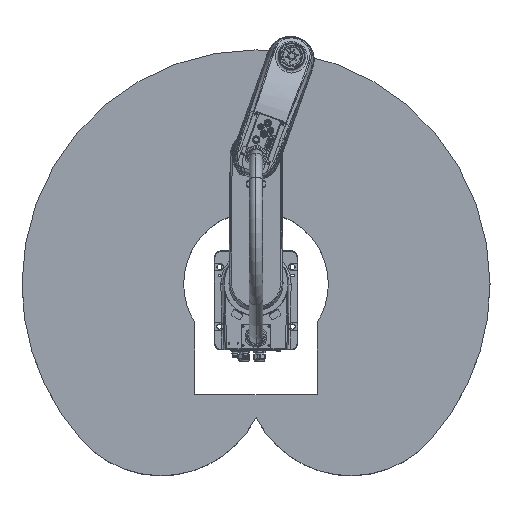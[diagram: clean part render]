
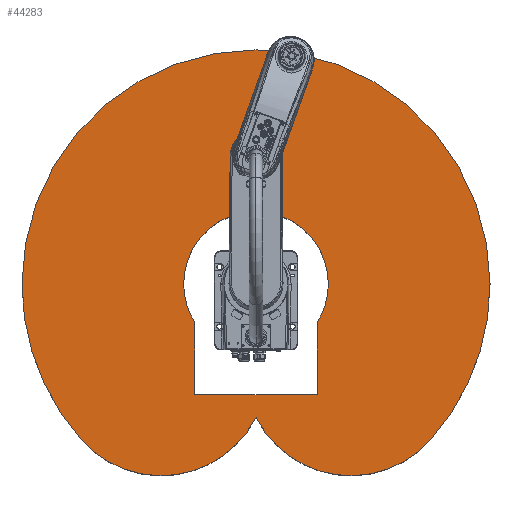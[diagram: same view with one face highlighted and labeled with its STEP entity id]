
A CAD part, top view. The second image highlights one B-rep face of the part: STEP entity #44283.
In plain terms, the highlighted planar face has unit normal (0, 0, 1).
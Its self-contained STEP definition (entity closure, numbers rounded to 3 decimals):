
#1962 = EDGE_CURVE ( 'NONE', #77150, #88256, #70836, .T. ) ;
#2650 = DIRECTION ( 'NONE',  ( 0., 0., 1. ) ) ;
#3065 = ORIENTED_EDGE ( 'NONE', *, *, #74436, .F. ) ;
#4147 = ORIENTED_EDGE ( 'NONE', *, *, #26562, .T. ) ;
#4874 = ORIENTED_EDGE ( 'NONE', *, *, #1962, .T. ) ;
#6410 = EDGE_CURVE ( 'NONE', #94848, #32008, #90885, .T. ) ;
#6780 = AXIS2_PLACEMENT_3D ( 'NONE', #83143, #40898, #83696 ) ;
#8179 = DIRECTION ( 'NONE',  ( 0., 0., 1. ) ) ;
#12072 = CIRCLE ( 'NONE', #6780, 250. ) ;
#12080 = CIRCLE ( 'NONE', #15581, 170. ) ;
#12185 = CARTESIAN_POINT ( 'NONE',  ( -408.73, -368.022, 240. ) ) ;
#13847 = ORIENTED_EDGE ( 'NONE', *, *, #108547, .T. ) ;
#15581 = AXIS2_PLACEMENT_3D ( 'NONE', #81679, #99422, #74429 ) ;
#17758 = PLANE ( 'NONE',  #18767 ) ;
#18680 = CARTESIAN_POINT ( 'NONE',  ( 143.5, -91.147, 240. ) ) ;
#18767 = AXIS2_PLACEMENT_3D ( 'NONE', #77302, #102833, #26650 ) ;
#19330 = AXIS2_PLACEMENT_3D ( 'NONE', #103837, #2650, #62715 ) ;
#19721 = CARTESIAN_POINT ( 'NONE',  ( -143.5, -91.147, 240. ) ) ;
#22695 = ORIENTED_EDGE ( 'NONE', *, *, #81583, .F. ) ;
#23157 = CARTESIAN_POINT ( 'NONE',  ( 143.5, 0., 240. ) ) ;
#26316 = EDGE_LOOP ( 'NONE', ( #3065, #13847, #4874, #4147, #67964 ) ) ;
#26562 = EDGE_CURVE ( 'NONE', #88256, #79653, #42580, .T. ) ;
#26650 = DIRECTION ( 'NONE',  ( 1., 0., 0. ) ) ;
#26977 = CARTESIAN_POINT ( 'NONE',  ( 0., 0., 240. ) ) ;
#27983 = VECTOR ( 'NONE', #107129, 1000. ) ;
#30012 = CARTESIAN_POINT ( 'NONE',  ( 222.943, -200.739, 240. ) ) ;
#31180 = CARTESIAN_POINT ( 'NONE',  ( -170., 0., 240. ) ) ;
#32008 = VERTEX_POINT ( 'NONE', #108044 ) ;
#34219 = DIRECTION ( 'NONE',  ( 1., 0., 0. ) ) ;
#36473 = ORIENTED_EDGE ( 'NONE', *, *, #48085, .F. ) ;
#39052 = AXIS2_PLACEMENT_3D ( 'NONE', #26977, #75983, #86480 ) ;
#39267 = CARTESIAN_POINT ( 'NONE',  ( 408.73, -368.022, 240. ) ) ;
#39543 = ORIENTED_EDGE ( 'NONE', *, *, #52934, .F. ) ;
#39679 = LINE ( 'NONE', #73605, #78112 ) ;
#40898 = DIRECTION ( 'NONE',  ( 0., 0., 1. ) ) ;
#42580 = CIRCLE ( 'NONE', #67512, 550. ) ;
#43367 = FACE_BOUND ( 'NONE', #93473, .T. ) ;
#44283 = ADVANCED_FACE ( 'NONE', ( #60069, #43367 ), #17758, .T. ) ;
#46775 = EDGE_CURVE ( 'NONE', #87595, #94848, #99321, .T. ) ;
#47575 = ORIENTED_EDGE ( 'NONE', *, *, #46775, .F. ) ;
#48085 = EDGE_CURVE ( 'NONE', #104650, #87329, #109911, .T. ) ;
#48984 = CARTESIAN_POINT ( 'NONE',  ( 0., 0., 240. ) ) ;
#49450 = DIRECTION ( 'NONE',  ( 0., 1., 0. ) ) ;
#50220 = EDGE_CURVE ( 'NONE', #55627, #87329, #90603, .T. ) ;
#52934 = EDGE_CURVE ( 'NONE', #32008, #104650, #12080, .T. ) ;
#53567 = ORIENTED_EDGE ( 'NONE', *, *, #6410, .F. ) ;
#55604 = CARTESIAN_POINT ( 'NONE',  ( 143.5, -260., 240. ) ) ;
#55627 = VERTEX_POINT ( 'NONE', #61539 ) ;
#56242 = CIRCLE ( 'NONE', #86345, 250. ) ;
#57279 = DIRECTION ( 'NONE',  ( 1., 0., 0. ) ) ;
#59020 = AXIS2_PLACEMENT_3D ( 'NONE', #85364, #83746, #34219 ) ;
#60069 = FACE_OUTER_BOUND ( 'NONE', #26316, .T. ) ;
#61539 = CARTESIAN_POINT ( 'NONE',  ( -143.5, -260., 240. ) ) ;
#62227 = VECTOR ( 'NONE', #49450, 1000. ) ;
#62715 = DIRECTION ( 'NONE',  ( 1., 0., 0. ) ) ;
#66140 = VERTEX_POINT ( 'NONE', #39267 ) ;
#67512 = AXIS2_PLACEMENT_3D ( 'NONE', #48984, #74018, #100107 ) ;
#67964 = ORIENTED_EDGE ( 'NONE', *, *, #97099, .T. ) ;
#70836 = CIRCLE ( 'NONE', #77993, 550. ) ;
#73605 = CARTESIAN_POINT ( 'NONE',  ( 0., -260., 240. ) ) ;
#74018 = DIRECTION ( 'NONE',  ( 0., 0., 1. ) ) ;
#74429 = DIRECTION ( 'NONE',  ( 1., 0., 0. ) ) ;
#74436 = EDGE_CURVE ( 'NONE', #66140, #87181, #56242, .T. ) ;
#75983 = DIRECTION ( 'NONE',  ( 0., 0., 1. ) ) ;
#76582 = DIRECTION ( 'NONE',  ( 1., 0., 0. ) ) ;
#77150 = VERTEX_POINT ( 'NONE', #98993 ) ;
#77302 = CARTESIAN_POINT ( 'NONE',  ( 0., 0., 240. ) ) ;
#77993 = AXIS2_PLACEMENT_3D ( 'NONE', #109929, #8179, #76582 ) ;
#78112 = VECTOR ( 'NONE', #107498, 1000. ) ;
#79653 = VERTEX_POINT ( 'NONE', #12185 ) ;
#81199 = ORIENTED_EDGE ( 'NONE', *, *, #50220, .T. ) ;
#81583 = EDGE_CURVE ( 'NONE', #55627, #87595, #39679, .T. ) ;
#81679 = CARTESIAN_POINT ( 'NONE',  ( 0., 0., 240. ) ) ;
#83143 = CARTESIAN_POINT ( 'NONE',  ( -222.943, -200.739, 240. ) ) ;
#83696 = DIRECTION ( 'NONE',  ( 1., 0., 0. ) ) ;
#83746 = DIRECTION ( 'NONE',  ( 0., 0., 1. ) ) ;
#85242 = CIRCLE ( 'NONE', #39052, 550. ) ;
#85364 = CARTESIAN_POINT ( 'NONE',  ( 0., 0., 240. ) ) ;
#86345 = AXIS2_PLACEMENT_3D ( 'NONE', #30012, #90618, #57279 ) ;
#86480 = DIRECTION ( 'NONE',  ( 1., 0., 0. ) ) ;
#87181 = VERTEX_POINT ( 'NONE', #102577 ) ;
#87329 = VERTEX_POINT ( 'NONE', #19721 ) ;
#87595 = VERTEX_POINT ( 'NONE', #55604 ) ;
#88256 = VERTEX_POINT ( 'NONE', #89211 ) ;
#89211 = CARTESIAN_POINT ( 'NONE',  ( -550., 0., 240. ) ) ;
#90603 = LINE ( 'NONE', #91144, #62227 ) ;
#90618 = DIRECTION ( 'NONE',  ( 0., 0., -1. ) ) ;
#90885 = CIRCLE ( 'NONE', #59020, 170. ) ;
#91144 = CARTESIAN_POINT ( 'NONE',  ( -143.5, 0., 240. ) ) ;
#93473 = EDGE_LOOP ( 'NONE', ( #53567, #47575, #22695, #81199, #36473, #39543 ) ) ;
#94848 = VERTEX_POINT ( 'NONE', #18680 ) ;
#97099 = EDGE_CURVE ( 'NONE', #79653, #87181, #12072, .T. ) ;
#98993 = CARTESIAN_POINT ( 'NONE',  ( 550., 0., 240. ) ) ;
#99321 = LINE ( 'NONE', #23157, #27983 ) ;
#99422 = DIRECTION ( 'NONE',  ( 0., 0., 1. ) ) ;
#100107 = DIRECTION ( 'NONE',  ( 1., 0., 0. ) ) ;
#102577 = CARTESIAN_POINT ( 'NONE',  ( 0., -313.86, 240. ) ) ;
#102833 = DIRECTION ( 'NONE',  ( 0., 0., 1. ) ) ;
#103837 = CARTESIAN_POINT ( 'NONE',  ( 0., 0., 240. ) ) ;
#104650 = VERTEX_POINT ( 'NONE', #31180 ) ;
#107129 = DIRECTION ( 'NONE',  ( 0., 1., 0. ) ) ;
#107498 = DIRECTION ( 'NONE',  ( 1., 0., 0. ) ) ;
#108044 = CARTESIAN_POINT ( 'NONE',  ( 170., 0., 240. ) ) ;
#108547 = EDGE_CURVE ( 'NONE', #66140, #77150, #85242, .T. ) ;
#109911 = CIRCLE ( 'NONE', #19330, 170. ) ;
#109929 = CARTESIAN_POINT ( 'NONE',  ( 0., 0., 240. ) ) ;
